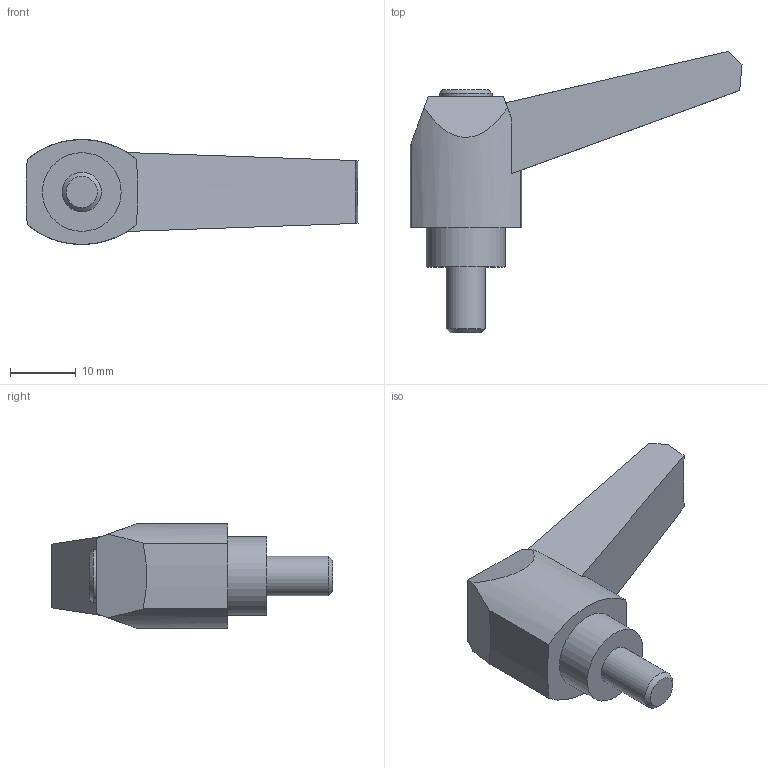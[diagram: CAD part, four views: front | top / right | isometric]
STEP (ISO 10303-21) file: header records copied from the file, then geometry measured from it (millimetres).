
FILE_DESCRIPTION( ( 'STEP AP203' ), '1' );
FILE_NAME( 'C:/Temp/Ganter_Step_05_03_2020/data/2_1/gn_500/gn_500_ms/Adjustable hand lever GN 500-42-M6-10-SW.stp', '2020-03-05T11:26:31', ( 'License CC BY-ND 4.0' ), ( 'CADENAS' ), ' ', 'PARTsolutions', ' ' );
FILE_SCHEMA( ( 'CONFIG_CONTROL_DESIGN' ) );
Length unit declared in the file: millimetre
Products named in the file (1): _Adjustable hand lever GN 500-42-M6-10-SW
Bounding box: 50.59 x 42.85 x 16 mm (x, y, z)
Volume: 8597.3 mm3; surface area: 3201.1 mm2
Topology: 1 solids, 1 shells, 24 faces, 56 edges, 37 vertices
Faces by surface type: plane 11, cylinder 7, cone 6
Full cylindrical faces by diameter (mm): 6 x1, 8 x1, 12 x1
Entity records: 708 total; most frequent: CARTESIAN_POINT 123, DIRECTION 118, ORIENTED_EDGE 100, EDGE_CURVE 50, AXIS2_PLACEMENT_3D 47, VERTEX_POINT 36, EDGE_LOOP 32, FACE_OUTER_BOUND 27
